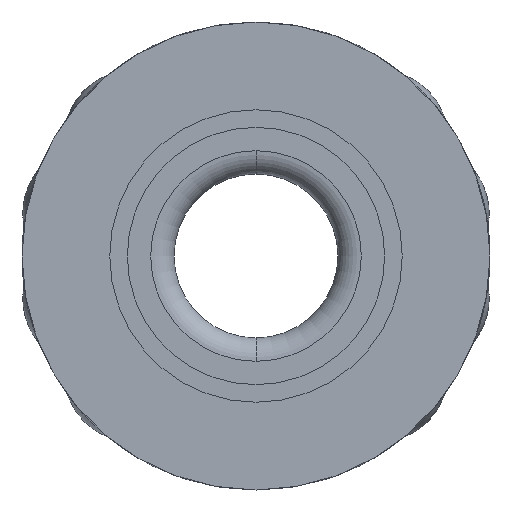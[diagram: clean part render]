
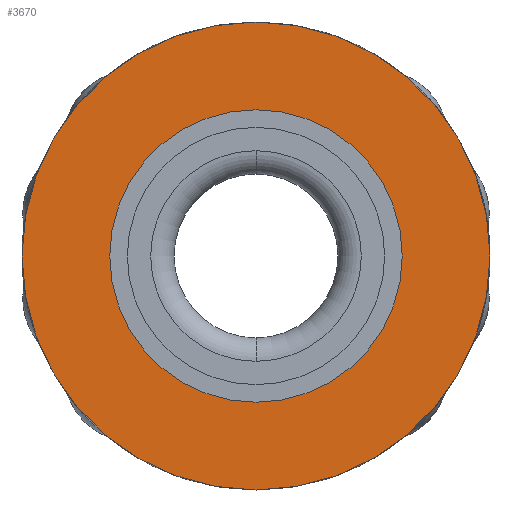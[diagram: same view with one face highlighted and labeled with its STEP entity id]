
A CAD part, front view. The second image highlights one B-rep face of the part: STEP entity #3670.
In plain terms, the highlighted planar face has unit normal (0, -1, 0).
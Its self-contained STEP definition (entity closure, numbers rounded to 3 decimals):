
#18 = CIRCLE ( 'NONE', #3461, 5.5 ) ;
#299 = EDGE_LOOP ( 'NONE', ( #728, #3695 ) ) ;
#325 = CARTESIAN_POINT ( 'NONE',  ( -423.93, -8722.704, 0. ) ) ;
#483 = DIRECTION ( 'NONE',  ( 0., 0., -1. ) ) ;
#728 = ORIENTED_EDGE ( 'NONE', *, *, #2441, .F. ) ;
#926 = CIRCLE ( 'NONE', #4202, 10. ) ;
#937 = VERTEX_POINT ( 'NONE', #5515 ) ;
#946 = DIRECTION ( 'NONE',  ( 0., 1., 0. ) ) ;
#1431 = CARTESIAN_POINT ( 'NONE',  ( -423.93, -8722.704, -5.5 ) ) ;
#1468 = DIRECTION ( 'NONE',  ( 0., -1., 0. ) ) ;
#1511 = EDGE_CURVE ( 'NONE', #2903, #1573, #926, .T. ) ;
#1573 = VERTEX_POINT ( 'NONE', #2612 ) ;
#1731 = EDGE_LOOP ( 'NONE', ( #6284, #2406 ) ) ;
#1740 = DIRECTION ( 'NONE',  ( 0., -1., 0. ) ) ;
#2129 = DIRECTION ( 'NONE',  ( 0., 0., 1. ) ) ;
#2222 = FACE_OUTER_BOUND ( 'NONE', #1731, .T. ) ;
#2406 = ORIENTED_EDGE ( 'NONE', *, *, #5123, .T. ) ;
#2441 = EDGE_CURVE ( 'NONE', #4239, #937, #18, .T. ) ;
#2507 = CARTESIAN_POINT ( 'NONE',  ( -423.93, -8722.704, 0. ) ) ;
#2612 = CARTESIAN_POINT ( 'NONE',  ( -423.93, -8722.704, 10. ) ) ;
#2746 = DIRECTION ( 'NONE',  ( 0., 0., -1. ) ) ;
#2886 = AXIS2_PLACEMENT_3D ( 'NONE', #4545, #5024, #2129 ) ;
#2903 = VERTEX_POINT ( 'NONE', #5378 ) ;
#3294 = DIRECTION ( 'NONE',  ( 0., -1., 0. ) ) ;
#3461 = AXIS2_PLACEMENT_3D ( 'NONE', #4686, #3294, #4215 ) ;
#3670 = ADVANCED_FACE ( 'NONE', ( #3877, #2222 ), #4435, .F. ) ;
#3690 = AXIS2_PLACEMENT_3D ( 'NONE', #3906, #946, #4894 ) ;
#3695 = ORIENTED_EDGE ( 'NONE', *, *, #5106, .F. ) ;
#3771 = CIRCLE ( 'NONE', #2886, 5.5 ) ;
#3877 = FACE_BOUND ( 'NONE', #299, .T. ) ;
#3906 = CARTESIAN_POINT ( 'NONE',  ( 0., -8722.704, 0. ) ) ;
#4202 = AXIS2_PLACEMENT_3D ( 'NONE', #2507, #1468, #483 ) ;
#4215 = DIRECTION ( 'NONE',  ( 0., 0., 1. ) ) ;
#4239 = VERTEX_POINT ( 'NONE', #1431 ) ;
#4435 = PLANE ( 'NONE',  #3690 ) ;
#4545 = CARTESIAN_POINT ( 'NONE',  ( -423.93, -8722.704, 0. ) ) ;
#4686 = CARTESIAN_POINT ( 'NONE',  ( -423.93, -8722.704, 0. ) ) ;
#4894 = DIRECTION ( 'NONE',  ( 0., 0., 1. ) ) ;
#5024 = DIRECTION ( 'NONE',  ( 0., -1., 0. ) ) ;
#5057 = CIRCLE ( 'NONE', #6128, 10. ) ;
#5106 = EDGE_CURVE ( 'NONE', #937, #4239, #3771, .T. ) ;
#5123 = EDGE_CURVE ( 'NONE', #1573, #2903, #5057, .T. ) ;
#5378 = CARTESIAN_POINT ( 'NONE',  ( -423.93, -8722.704, -10. ) ) ;
#5515 = CARTESIAN_POINT ( 'NONE',  ( -423.93, -8722.704, 5.5 ) ) ;
#6128 = AXIS2_PLACEMENT_3D ( 'NONE', #325, #1740, #2746 ) ;
#6284 = ORIENTED_EDGE ( 'NONE', *, *, #1511, .T. ) ;
